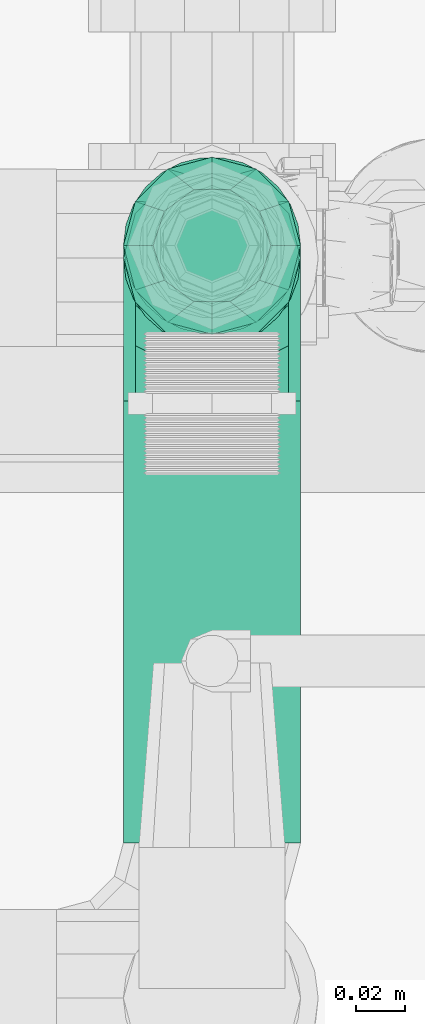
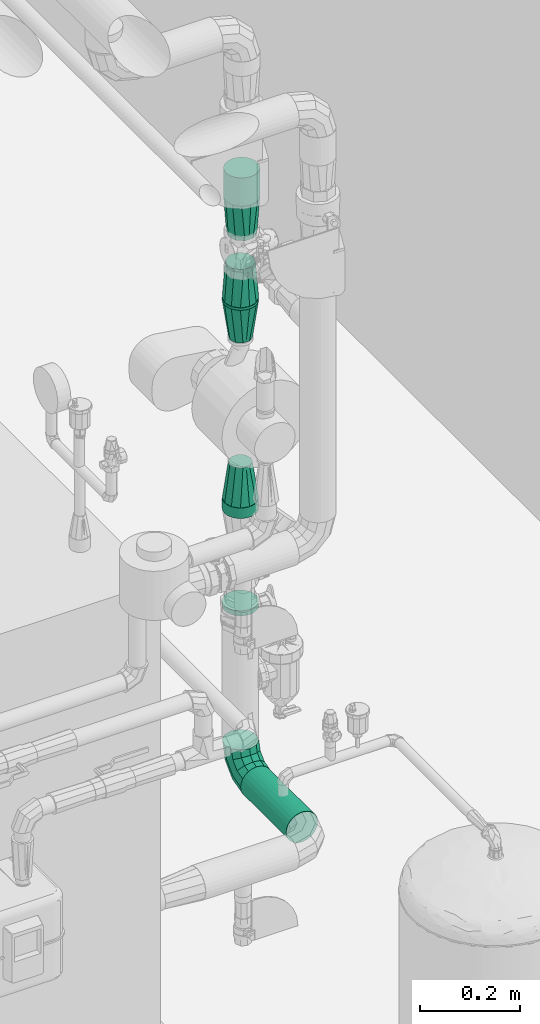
# One storey, part 24 of 43: 5 flow fittings, 5 flow segments.
"""IFC2X3 building model written with IfcOpenShell, lengths in millimetres."""

from ifc_helpers import new_model, entity, si_unit, converted_unit, derived_unit, direction, frame, frame_2d, origin, origin_2d_with_axis, place, context, subcontext, project, spatial, circle, extrude, faceted_brep, source, transform, mapped, material, material_list, type_object, type_shapes, element, save


model = new_model("IFC2X3")

# Units and contexts
model_context = context("Model", 3, precision=0.01, world=origin(), true_north=direction((6.123031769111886e-17, 1.0)))
body_context = subcontext(model_context, "Body", "Model", "MODEL_VIEW")
ifc_project = project(units=[si_unit("LENGTHUNIT", "METRE", prefix="MILLI"), si_unit("AREAUNIT", "SQUARE_METRE"), si_unit("VOLUMEUNIT", "CUBIC_METRE"), converted_unit("PLANEANGLEUNIT", "DEGREE", entity("IfcRatioMeasure", 0.017453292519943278), si_unit("PLANEANGLEUNIT", "RADIAN"), dimensions=[0, 0, 0, 0, 0, 0, 0]), si_unit("MASSUNIT", "GRAM", prefix="KILO"), derived_unit("MASSDENSITYUNIT", [(si_unit("MASSUNIT", "GRAM", prefix="KILO"), 1), (si_unit("LENGTHUNIT", "METRE"), -3)]), derived_unit("MOMENTOFINERTIAUNIT", [(si_unit("LENGTHUNIT", "METRE"), 4)]), si_unit("TIMEUNIT", "SECOND"), si_unit("FREQUENCYUNIT", "HERTZ"), si_unit("THERMODYNAMICTEMPERATUREUNIT", "DEGREE_CELSIUS"), derived_unit("THERMALTRANSMITTANCEUNIT", [(si_unit("MASSUNIT", "GRAM", prefix="KILO"), 1), (si_unit("THERMODYNAMICTEMPERATUREUNIT", "KELVIN"), -1), (si_unit("TIMEUNIT", "SECOND"), -3)]), derived_unit("VOLUMETRICFLOWRATEUNIT", [(si_unit("LENGTHUNIT", "METRE"), 3), (si_unit("TIMEUNIT", "SECOND"), -1)]), derived_unit("MASSFLOWRATEUNIT", [(si_unit("MASSUNIT", "GRAM", prefix="KILO"), 1), (si_unit("TIMEUNIT", "SECOND"), -1)]), derived_unit("ROTATIONALFREQUENCYUNIT", [(si_unit("TIMEUNIT", "SECOND"), -1)]), si_unit("ELECTRICCURRENTUNIT", "AMPERE"), si_unit("ELECTRICVOLTAGEUNIT", "VOLT"), si_unit("POWERUNIT", "WATT"), si_unit("FORCEUNIT", "NEWTON", prefix="KILO"), si_unit("ILLUMINANCEUNIT", "LUX"), si_unit("LUMINOUSFLUXUNIT", "LUMEN"), si_unit("LUMINOUSINTENSITYUNIT", "CANDELA"), derived_unit("USERDEFINED", [(si_unit("MASSUNIT", "GRAM", prefix="KILO"), -1), (si_unit("LENGTHUNIT", "METRE"), -2), (si_unit("TIMEUNIT", "SECOND"), 3), (si_unit("LUMINOUSFLUXUNIT", "LUMEN"), 1)]), derived_unit("SOUNDPOWERUNIT", [(si_unit("MASSUNIT", "GRAM", prefix="KILO"), 1), (si_unit("LENGTHUNIT", "METRE"), 2), (si_unit("TIMEUNIT", "SECOND"), -3)]), derived_unit("SOUNDPRESSUREUNIT", [(si_unit("MASSUNIT", "GRAM", prefix="KILO"), 1), (si_unit("LENGTHUNIT", "METRE"), -1), (si_unit("TIMEUNIT", "SECOND"), -2)]), derived_unit("LINEARVELOCITYUNIT", [(si_unit("LENGTHUNIT", "METRE"), 1), (si_unit("TIMEUNIT", "SECOND"), -1)]), si_unit("PRESSUREUNIT", "PASCAL"), derived_unit("USERDEFINED", [(si_unit("LENGTHUNIT", "METRE"), -2), (si_unit("MASSUNIT", "GRAM", prefix="KILO"), 1), (si_unit("TIMEUNIT", "SECOND"), -2)]), derived_unit("LINEARFORCEUNIT", [(si_unit("MASSUNIT", "GRAM", prefix="KILO"), 1), (si_unit("LENGTHUNIT", "METRE"), 1), (si_unit("TIMEUNIT", "SECOND"), -2), (si_unit("LENGTHUNIT", "METRE"), -1)]), derived_unit("PLANARFORCEUNIT", [(si_unit("MASSUNIT", "GRAM", prefix="KILO"), 1), (si_unit("LENGTHUNIT", "METRE"), 1), (si_unit("TIMEUNIT", "SECOND"), -2), (si_unit("LENGTHUNIT", "METRE"), -2)])], contexts=[model_context])

# Site, building, storey
site_placement = place(None, origin())
site = spatial("IfcSite", under=ifc_project, at=site_placement, Name="Default", CompositionType="ELEMENT")
building_placement = place(site_placement, origin())
building = spatial("IfcBuilding", under=site, at=building_placement, CompositionType="ELEMENT")
storey_placement = place(building_placement, frame((0.0, 0.0, 270.0)))
storey = spatial("IfcBuildingStorey", under=building, at=storey_placement, Name="Niveau 0", CompositionType="ELEMENT", Elevation=270.0)

# Flow segments
pipe_segment_type = type_object("IfcPipeSegmentType", Name="Canalisation:tube acier", PredefinedType="NOTDEFINED")
flow_segment_1_placement = place(storey_placement, origin())
element("IfcFlowSegment", 1, at=flow_segment_1_placement, inside=storey, type_object=pipe_segment_type, Name="Canalisation:tube acier", ObjectType="Canalisation:tube acier", context=body_context, shape_type="SweptSolid", body=[
    extrude(circle(Radius=36.5125, at=frame_2d((2.707167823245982e-13, -1.0828671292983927e-12), x_axis=(1.0, 0.0))), frame((-1682.0, -9305.0, 975.1665299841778)), (0.0, 0.0, 1.0), 12.403497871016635),
])
flow_segment_2_placement = place(storey_placement, origin())
element("IfcFlowSegment", 2, at=flow_segment_2_placement, inside=storey, type_object=pipe_segment_type, Name="Canalisation:tube acier", ObjectType="Canalisation:tube acier", context=body_context, shape_type="SweptSolid", body=[
    extrude(circle(Radius=36.5125, at=frame_2d((2.707167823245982e-13, 0.0), x_axis=(1.0, 0.0))), frame((-1682.0, -9305.0, 1213.0689533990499)), (0.0, 0.0, 1.0), 25.53104660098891),
])
flow_segment_3_placement = place(storey_placement, origin())
element("IfcFlowSegment", 3, at=flow_segment_3_placement, inside=storey, type_object=pipe_segment_type, Name="Canalisation:tube acier", ObjectType="Canalisation:tube acier", context=body_context, shape_type="SweptSolid", body=[
    extrude(circle(Radius=36.5125, at=frame_2d((2.707167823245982e-13, -1.353583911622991e-13), x_axis=(1.0, 0.0))), frame((-1682.0, -9551.0, 583.4999999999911), z_axis=(0.0, 1.0, 0.0), x_axis=(1.0, 0.0, 0.0)), (0.0, 0.0, 1.0), 182.00000000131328),
])
flow_segment_4_placement = place(storey_placement, origin())
element("IfcFlowSegment", 4, at=flow_segment_4_placement, inside=storey, type_object=pipe_segment_type, Name="Canalisation:tube acier", ObjectType="Canalisation:tube acier", context=body_context, shape_type="SweptSolid", body=[
    extrude(circle(Radius=36.5125, at=frame_2d((2.707167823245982e-13, 0.0), x_axis=(1.0, 0.0))), frame((-1682.0, -9305.0, 1721.4000000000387)), (0.0, 0.0, 1.0), 5.998234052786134),
])
flow_segment_5_placement = place(storey_placement, origin())
element("IfcFlowSegment", 5, at=flow_segment_5_placement, inside=storey, type_object=pipe_segment_type, Name="Canalisation:tube acier", ObjectType="Canalisation:tube acier", context=body_context, shape_type="SweptSolid", body=[
    extrude(circle(Radius=36.5125, at=origin_2d_with_axis()), frame((-1682.0, -9310.0, 1978.4695143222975)), (0.0, 0.0, 1.0), 69.06611003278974),
])

# Flow fittings
ifc_material = material(Name="<Unnamed>")
ifc_material_list = material_list([ifc_material, ifc_material])
pipe_fitting_type_1 = type_object("IfcPipeFittingType", Name="Coude - Générique:Standard", PredefinedType="NOTDEFINED", material=ifc_material_list)
shared_shape_1 = source(origin(), body_context, "Body", "Brep", [
    faceted_brep([(23.03555308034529, 13.749999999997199, 0.0), (18.800625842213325, 16.19503638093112, -18.250000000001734), (31.60992723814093, 64.0, -18.250000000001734), (36.50000000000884, 64.0, 0.0), (7.230589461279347, 22.874999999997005, -31.609927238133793), (18.250000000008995, 64.0, -31.609927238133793), (-8.574374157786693, 32.0, -36.50000000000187), (0.0, 64.0, -36.50000000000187), (-24.379337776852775, 41.12499999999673, -31.609927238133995), (-18.249999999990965, 64.0, -31.609927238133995), (-35.94937415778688, 47.8049636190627, -18.250000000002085), (-31.609927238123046, 64.0, -18.250000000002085), (-40.184301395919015, 50.24999999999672, 0.0), (-36.49999999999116, 64.0, 0.0), (-35.949374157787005, 47.80496361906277, 18.249999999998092), (-31.609927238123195, 64.0, 18.249999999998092), (-24.37933777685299, 41.12499999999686, 31.609927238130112), (-18.249999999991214, 64.0, 31.609927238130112), (-8.574374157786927, 32.0, 36.49999999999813), (0.0, 64.0, 36.49999999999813), (7.2305894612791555, 22.87499999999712, 31.609927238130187), (18.250000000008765, 64.0, 31.609927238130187), (18.80062584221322, 16.195036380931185, 18.24999999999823), (31.6099272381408, 64.0, 18.24999999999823), (-13.749999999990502, -23.035553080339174, 0.0), (-16.1950363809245, -18.80062584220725, -18.250000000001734), (-22.874999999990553, -7.230589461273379, -31.609927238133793), (-32.0, 8.574374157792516, -36.50000000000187), (-41.124999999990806, 24.379337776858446, -31.609927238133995), (-47.804963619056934, 35.94937415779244, -18.250000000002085), (-50.24999999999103, 40.18430139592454, 0.0), (-47.80496361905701, 35.94937415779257, 18.249999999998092), (-41.12499999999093, 24.37933777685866, 31.609927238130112), (-32.0, 8.574374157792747, 36.49999999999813), (-22.874999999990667, -7.23058946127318, 31.609927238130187), (-16.195036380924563, -18.800625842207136, 18.24999999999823), (-64.0, -36.50000000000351, 0.0), (-64.0, -31.609927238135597, -18.250000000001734), (-64.0, -18.250000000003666, -31.609927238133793), (-64.0, 0.0, -36.50000000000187), (-64.0, 18.249999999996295, -31.609927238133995), (-64.0, 31.60992723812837, -18.250000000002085), (-64.0, 36.49999999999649, 0.0), (-64.0, 31.60992723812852, 18.249999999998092), (-64.0, 18.249999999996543, 31.609927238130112), (-64.0, 0.0, 36.49999999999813), (-64.0, -18.25000000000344, 31.609927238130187), (-64.0, -31.60992723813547, 18.24999999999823)], [[[0, 1, 2, 3]], [[1, 4, 5, 2]], [[4, 6, 7, 5]], [[6, 8, 9, 7]], [[8, 10, 11, 9]], [[10, 12, 13, 11]], [[12, 14, 15, 13]], [[14, 16, 17, 15]], [[16, 18, 19, 17]], [[18, 20, 21, 19]], [[20, 22, 23, 21]], [[22, 0, 3, 23]], [[24, 25, 1, 0]], [[25, 26, 4, 1]], [[26, 27, 6, 4]], [[27, 28, 8, 6]], [[28, 29, 10, 8]], [[29, 30, 12, 10]], [[30, 31, 14, 12]], [[31, 32, 16, 14]], [[32, 33, 18, 16]], [[33, 34, 20, 18]], [[34, 35, 22, 20]], [[35, 24, 0, 22]], [[36, 37, 25, 24]], [[37, 38, 26, 25]], [[38, 39, 27, 26]], [[39, 40, 28, 27]], [[40, 41, 29, 28]], [[41, 42, 30, 29]], [[42, 43, 31, 30]], [[43, 44, 32, 31]], [[44, 45, 33, 32]], [[45, 46, 34, 33]], [[46, 47, 35, 34]], [[47, 36, 24, 35]], [[3, 2, 5, 7, 9, 11, 13, 15, 17, 19, 21, 23]], [[47, 46, 45, 44, 43, 42, 41, 40, 39, 38, 37, 36]]]),
])
type_shapes(pipe_fitting_type_1, [shared_shape_1])
flow_fitting_placement = place(storey_placement, frame((-1682.0, -9305.0, 583.5000000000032), z_axis=(1.0, 0.0, 0.0), x_axis=(0.0, 1.0, 0.0)))
element("IfcFlowFitting", 6, at=flow_fitting_placement, inside=storey, type_object=pipe_fitting_type_1, material=ifc_material, Name="Coude - Générique:Standard", ObjectType="Coude - Générique:Standard", context=body_context, shape_type="MappedRepresentation", body=[
    mapped(shared_shape_1, transform((0.0, 0.0, 0.0), scale=1.0)),
])
pipe_fitting_type_2 = type_object("IfcPipeFittingType", Name="Transformation - Générique:Standard", PredefinedType="NOTDEFINED", material=ifc_material)
shared_shape_2 = source(origin(), body_context, "Body", "Brep", [
    faceted_brep([(89.0, -24.25898437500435, 0.0), (89.0, -21.942457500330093, -7.129536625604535), (89.0, -19.62593062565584, -14.259073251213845), (89.0, -13.561184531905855, -18.66536920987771), (89.0, -7.496438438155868, -23.07166516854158), (89.0, 0.0, -23.071665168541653), (89.0, 7.496438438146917, -23.071665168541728), (89.0, 13.561184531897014, -18.665369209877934), (89.0, 19.625930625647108, -14.25907325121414), (89.0, 21.942457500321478, -7.129536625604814), (89.0, 24.258984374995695, 0.0), (89.0, 21.9424575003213, 7.129536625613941), (89.0, 19.6259306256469, 14.259073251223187), (89.0, 13.561184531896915, 18.665369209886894), (89.0, 7.496438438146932, 23.071665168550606), (89.0, 0.0, 23.071665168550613), (89.0, -7.496438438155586, 23.071665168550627), (89.0, -13.561184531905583, 18.66536920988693), (89.0, -19.625930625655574, 14.259073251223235), (89.0, -21.94245750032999, 7.129536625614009), (0.0, 9.124999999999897, 34.054963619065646), (0.0, 18.249999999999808, 31.609927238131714), (0.0, 24.92996361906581, 24.929963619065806), (0.0, 31.60992723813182, 18.2499999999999), (0.0, 34.754047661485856, 6.515982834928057), (0.0, 36.500000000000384, 0.0), (0.0, 34.75404772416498, -6.515982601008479), (0.0, 31.60992723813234, -18.250000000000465), (0.0, 24.92996361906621, -24.92996361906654), (0.0, 18.250000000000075, -31.609927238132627), (0.0, 9.124999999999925, -34.054963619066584), (0.0, 0.0, -36.50000000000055), (0.0, -9.125000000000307, -34.05496361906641), (0.0, -18.250000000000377, -31.609927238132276), (0.0, -24.929963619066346, -24.929963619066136), (0.0, -31.609927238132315, -18.249999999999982), (0.0, -34.754047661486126, -6.515982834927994), (0.0, -36.49999999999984, 0.0), (0.0, -34.75404772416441, 6.515982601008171), (0.0, -31.60992723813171, 18.249999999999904), (0.0, -24.929963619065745, 24.92996361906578), (0.0, -18.24999999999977, 31.60992723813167), (0.0, -9.124999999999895, 34.05496361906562), (0.0, 0.0, 36.49999999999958)], [[[0, 1, 2, 3, 4, 5, 6, 7, 8, 9, 10, 11, 12, 13, 14, 15, 16, 17, 18, 19]], [[20, 21, 22, 23, 24, 25, 26, 27, 28, 29, 30, 31, 32, 33, 34, 35, 36, 37, 38, 39, 40, 41, 42, 43]], [[28, 7, 29]], [[27, 8, 28]], [[7, 28, 8]], [[27, 9, 8]], [[26, 10, 9]], [[33, 4, 3]], [[7, 6, 29]], [[30, 29, 6]], [[4, 32, 5]], [[6, 5, 30]], [[2, 34, 3]], [[0, 37, 36]], [[32, 31, 5]], [[0, 36, 1]], [[27, 26, 9]], [[4, 33, 32]], [[10, 26, 25]], [[1, 35, 2]], [[2, 35, 34]], [[35, 1, 36]], [[33, 3, 34]], [[30, 5, 31]], [[40, 17, 41]], [[39, 18, 40]], [[17, 40, 18]], [[39, 19, 18]], [[38, 0, 19]], [[21, 14, 13]], [[17, 16, 41]], [[42, 41, 16]], [[14, 20, 15]], [[16, 15, 42]], [[12, 22, 13]], [[10, 25, 24]], [[20, 43, 15]], [[10, 24, 11]], [[39, 38, 19]], [[14, 21, 20]], [[0, 38, 37]], [[11, 23, 12]], [[12, 23, 22]], [[23, 11, 24]], [[21, 13, 22]], [[42, 15, 43]]]),
])
type_shapes(pipe_fitting_type_2, [shared_shape_2])
for number, where, z_axis, x_axis in (
    (7, (-1682.0, -9305.0, 1721.4000000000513), (0.0, -1.0, 0.0), (0.0, 0.0, -1.0)),
    (8, (-1682.0, -9305.0, 1238.6000000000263), (0.0, -1.0, 0.0), (0.0, 0.0, 1.0)),
):
    element("IfcFlowFitting", number, at=place(storey_placement, frame(where, z_axis=z_axis, x_axis=x_axis)), inside=storey, type_object=pipe_fitting_type_2, material=ifc_material, Name="Transformation - Générique:Standard", ObjectType="Transformation - Générique:Standard", context=body_context, shape_type="MappedRepresentation", body=[
        mapped(shared_shape_2, transform((0.0, 0.0, 0.0), scale=1.0)),
    ])
pipe_fitting_type_3 = type_object("IfcPipeFittingType", Name="Transformation - Générique:Standard", PredefinedType="NOTDEFINED", material=ifc_material)
shared_shape_3 = source(origin(), body_context, "Body", "Brep", [
    faceted_brep([(89.0, -30.608984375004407, 0.0), (89.0, -27.686086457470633, -8.995754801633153), (89.0, -24.763188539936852, -17.991509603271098), (89.0, -17.110942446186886, -23.551191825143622), (89.0, -9.458696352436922, -29.110874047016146), (89.0, 0.0, -29.110874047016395), (89.0, 9.458696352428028, -29.11087404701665), (89.0, 17.11094244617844, -23.55119182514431), (89.0, 24.76318853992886, -17.991509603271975), (89.0, 27.68608645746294, -8.995754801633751), (89.0, 30.60898437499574, 0.0), (89.0, 27.68608645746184, 8.995754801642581), (89.0, 24.76318853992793, 17.991509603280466), (89.0, 17.11094244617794, 23.551191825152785), (89.0, 9.458696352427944, 29.110874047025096), (89.0, 0.0, 29.110874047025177), (89.0, -9.458696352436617, 29.110874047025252), (89.0, -17.110942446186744, 23.551191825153), (89.0, -24.76318853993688, 17.991509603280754), (89.0, -27.68608645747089, 8.995754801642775), (0.0, -31.609927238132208, -18.249999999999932), (0.0, -34.651848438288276, -6.897395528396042), (0.0, -36.50000000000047, 0.0), (0.0, -34.651848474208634, 6.897395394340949), (0.0, -31.609927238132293, 18.25000000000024), (0.0, -24.929963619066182, 24.929963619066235), (0.0, -18.25000000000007, 31.609927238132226), (0.0, -9.12500000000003, 34.05496361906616), (0.0, 0.0, 36.5000000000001), (0.0, 9.125, 34.05496361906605), (0.0, 18.25, 31.609927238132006), (0.0, 24.929963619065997, 24.929963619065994), (0.0, 31.609927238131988, 18.249999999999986), (0.0, 34.65184843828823, 6.89739552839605), (0.0, 36.50000000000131, 0.0), (0.0, 34.651848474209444, -6.89739539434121), (0.0, 31.609927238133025, -18.250000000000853), (0.0, 24.929963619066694, -24.929963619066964), (0.0, 18.250000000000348, -31.60992723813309), (0.0, 9.125000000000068, -34.054963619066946), (0.0, 0.0, -36.500000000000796), (0.0, -9.125000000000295, -34.05496361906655), (0.0, -18.25000000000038, -31.60992723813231), (0.0, -24.929963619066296, -24.92996361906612)], [[[0, 1, 2, 3, 4, 5, 6, 7, 8, 9, 10, 11, 12, 13, 14, 15, 16, 17, 18, 19]], [[20, 21, 22, 23, 24, 25, 26, 27, 28, 29, 30, 31, 32, 33, 34, 35, 36, 37, 38, 39, 40, 41, 42, 43]], [[37, 7, 38]], [[36, 8, 37]], [[7, 37, 8]], [[36, 9, 8]], [[35, 10, 9]], [[42, 4, 3]], [[20, 1, 21]], [[7, 6, 38]], [[4, 41, 5]], [[6, 5, 39]], [[2, 43, 3]], [[41, 40, 5]], [[42, 3, 43]], [[0, 21, 1]], [[36, 35, 9]], [[4, 42, 41]], [[10, 35, 34]], [[1, 20, 2]], [[2, 20, 43]], [[0, 22, 21]], [[39, 5, 40]], [[39, 38, 6]], [[25, 17, 26]], [[24, 18, 25]], [[17, 25, 18]], [[24, 19, 18]], [[23, 0, 19]], [[30, 14, 13]], [[32, 11, 33]], [[17, 16, 26]], [[14, 29, 15]], [[16, 15, 27]], [[12, 31, 13]], [[29, 28, 15]], [[30, 13, 31]], [[10, 33, 11]], [[24, 23, 19]], [[14, 30, 29]], [[0, 23, 22]], [[11, 32, 12]], [[12, 32, 31]], [[10, 34, 33]], [[27, 15, 28]], [[27, 26, 16]]]),
])
type_shapes(pipe_fitting_type_3, [shared_shape_3])
for number, where, z_axis, x_axis in (
    (9, (-1682.0, -9310.0, 1978.46951432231), (0.0, -1.0, 0.0), (0.0, 0.0, -1.0)),
    (10, (-1682.0, -9305.0, 1727.3982340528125), (0.0, -1.0, 0.0), (0.0, 0.0, 1.0)),
):
    element("IfcFlowFitting", number, at=place(storey_placement, frame(where, z_axis=z_axis, x_axis=x_axis)), inside=storey, type_object=pipe_fitting_type_3, material=ifc_material, Name="Transformation - Générique:Standard", ObjectType="Transformation - Générique:Standard", context=body_context, shape_type="MappedRepresentation", body=[
        mapped(shared_shape_3, transform((0.0, 0.0, 0.0), scale=1.0)),
    ])

save(model, "model.ifc")
